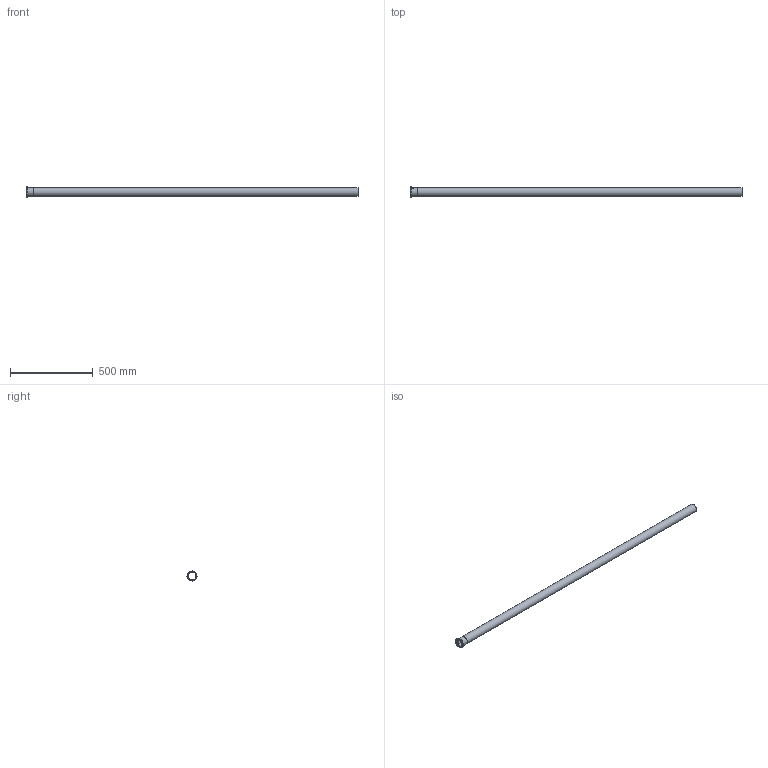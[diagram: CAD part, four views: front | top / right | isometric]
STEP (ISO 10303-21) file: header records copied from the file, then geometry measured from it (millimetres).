
FILE_DESCRIPTION((''),'2;1');
FILE_NAME('I:\WATTS\3D_CAD\3D_CAD_Models\Blucher_Drains\P_StraightPipe\WebsiteFiles\3D\STEP\P2-6.6-316.stp','2009-12-02T13:29:26',('menesek'),(''),'Autodesk Inventor 2010','Autodesk Inventor 2010','');
FILE_SCHEMA(('AUTOMOTIVE_DESIGN { 1 0 10303 214 1 1 1 1 }'));
Length unit declared in the file: inch
Products named in the file (1): P2-6.6-316
Bounding box: 2000 x 60.96 x 60.96 mm (x, y, z)
Volume: 321466.3 mm3; surface area: 618618.5 mm2
Topology: 1 solids, 1 shells, 109 faces, 285 edges, 190 vertices
Faces by surface type: plane 59, bspline 34, cylinder 16
Full cylindrical faces by diameter (mm): 48.006 x1, 50.038 x1, 50.8 x2, 60.96 x1
Entity records: 13765 total; most frequent: CARTESIAN_POINT 11387, ORIENTED_EDGE 548, DIRECTION 356, EDGE_CURVE 274, VERTEX_POINT 186, EDGE_LOOP 128, AXIS2_PLACEMENT_3D 120, VECTOR 116
